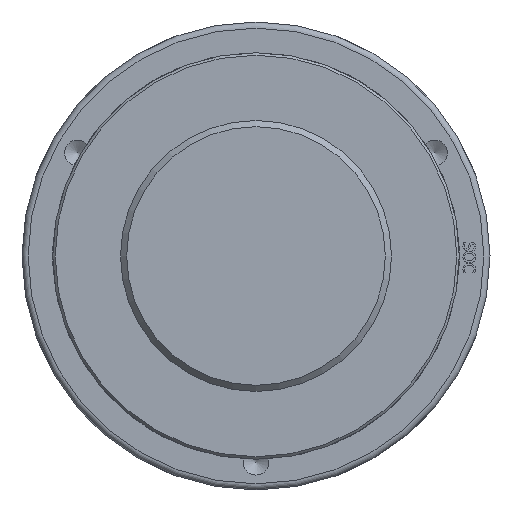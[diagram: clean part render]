
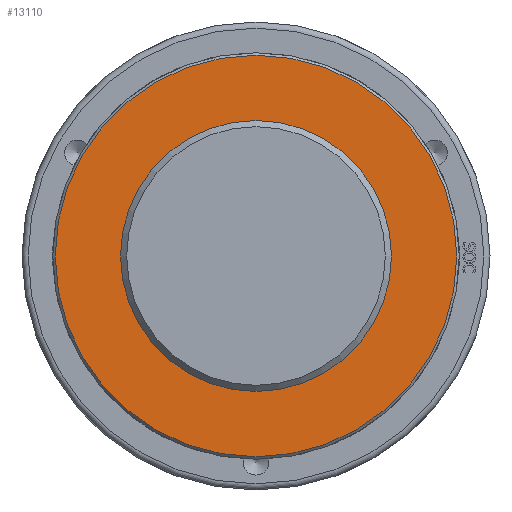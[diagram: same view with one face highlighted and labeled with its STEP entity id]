
A CAD part, front view. The second image highlights one B-rep face of the part: STEP entity #13110.
In plain terms, the highlighted planar face has unit normal (0, -1, 0) as drawn and (0, 1, 0) by its records, which use the part's own axes.
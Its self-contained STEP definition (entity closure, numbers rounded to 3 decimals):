
#90=CIRCLE('',#13781,163.);
#92=CIRCLE('',#13785,105.67);
#167=FACE_BOUND('',#2435,.T.);
#1658=FACE_OUTER_BOUND('',#2434,.T.);
#2434=EDGE_LOOP('',(#10396));
#2435=EDGE_LOOP('',(#10397));
#5868=VERTEX_POINT('',#20026);
#5882=VERTEX_POINT('',#20266);
#7499=EDGE_CURVE('',#5868,#5868,#90,.T.);
#7513=EDGE_CURVE('',#5882,#5882,#92,.T.);
#10396=ORIENTED_EDGE('',*,*,#7499,.F.);
#10397=ORIENTED_EDGE('',*,*,#7513,.T.);
#12609=PLANE('',#13784);
#13110=ADVANCED_FACE('',(#1658,#167),#12609,.T.);
#13781=AXIS2_PLACEMENT_3D('',#20027,#15016,#15017);
#13784=AXIS2_PLACEMENT_3D('',#20265,#15022,#15023);
#13785=AXIS2_PLACEMENT_3D('',#20267,#15024,#15025);
#15016=DIRECTION('center_axis',(0.,-1.,0.));
#15017=DIRECTION('ref_axis',(1.,0.,0.));
#15022=DIRECTION('center_axis',(0.,1.,0.));
#15023=DIRECTION('ref_axis',(0.,0.,1.));
#15024=DIRECTION('center_axis',(0.,-1.,0.));
#15025=DIRECTION('ref_axis',(1.,0.,0.));
#20026=CARTESIAN_POINT('',(-163.,110.,0.));
#20027=CARTESIAN_POINT('Origin',(0.,110.,0.));
#20265=CARTESIAN_POINT('Origin',(0.,110.,0.));
#20266=CARTESIAN_POINT('',(-105.67,110.,0.));
#20267=CARTESIAN_POINT('Origin',(0.,110.,0.));
